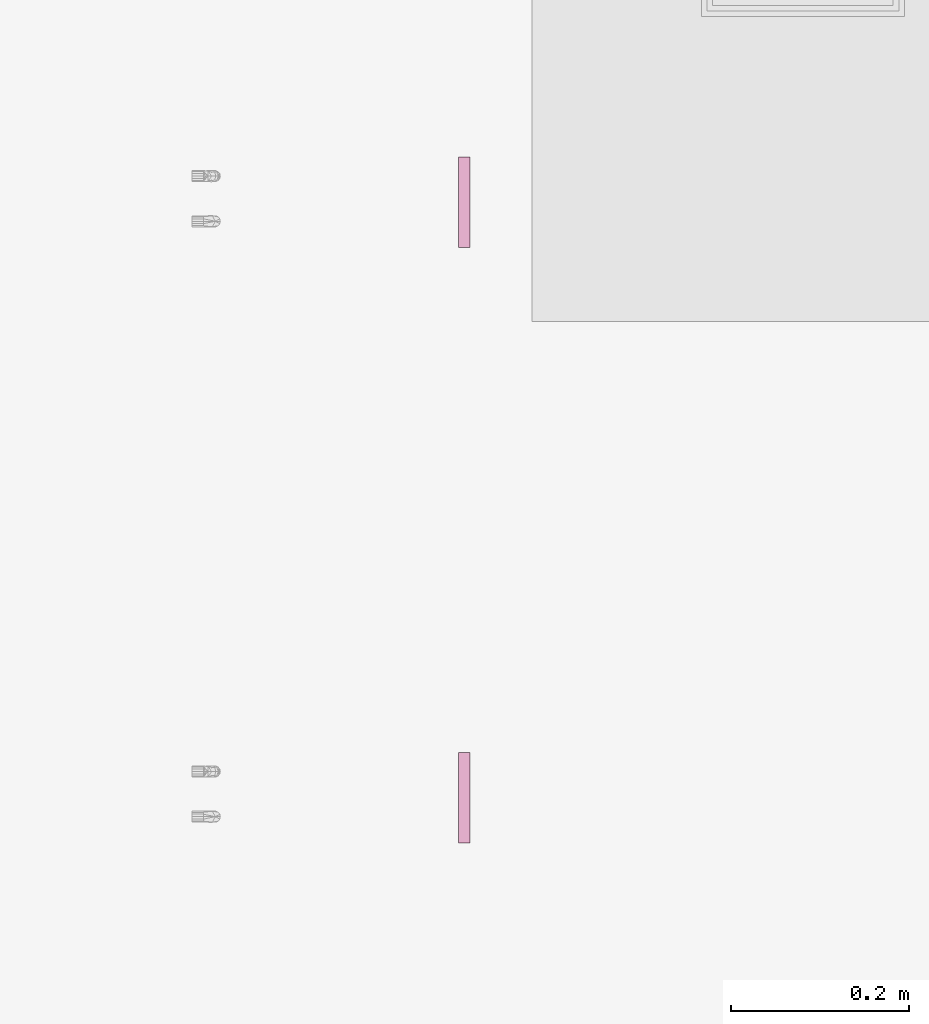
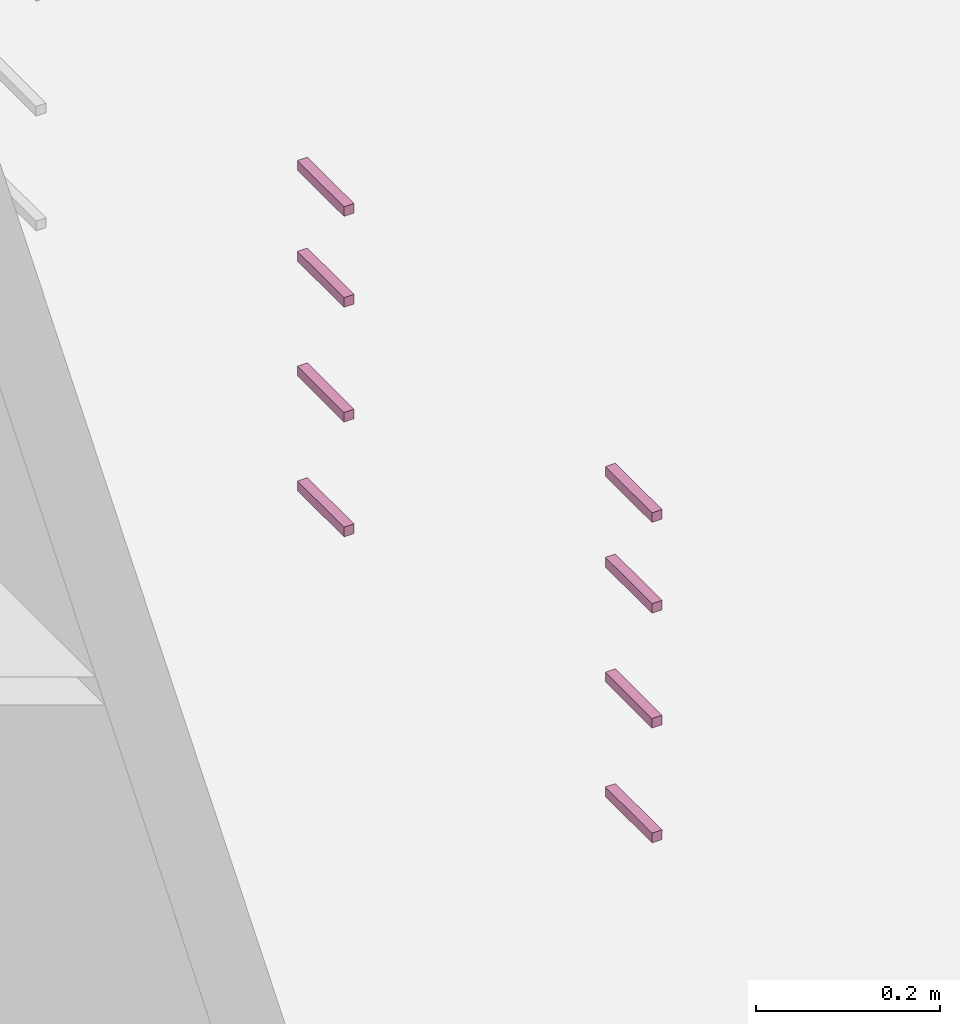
# One storey, part 30 of 40: 2 furnishings.
"""IFC2X3 building model written with IfcOpenShell, lengths in metres."""

from ifc_helpers import new_model, entity, si_unit, converted_unit, derived_unit, direction, frame, frame_2d, origin, place, context, subcontext, project, spatial, rectangle, extrude, source, transform, mapped, material, type_object, type_shapes, element, save


model = new_model("IFC2X3")

# Units and contexts
model_context = context("Model", 3, precision=1e-05, world=origin(), true_north=direction((6.12303176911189e-17, 1.0)))
body_context = subcontext(model_context, "Body", "Model", "MODEL_VIEW")
ifc_project = project(units=[si_unit("LENGTHUNIT", "METRE"), si_unit("AREAUNIT", "SQUARE_METRE"), si_unit("VOLUMEUNIT", "CUBIC_METRE"), converted_unit("PLANEANGLEUNIT", "DEGREE", entity("IfcRatioMeasure", 0.0174532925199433), si_unit("PLANEANGLEUNIT", "RADIAN"), dimensions=[0, 0, 0, 0, 0, 0, 0]), si_unit("MASSUNIT", "GRAM", prefix="KILO"), derived_unit("MASSDENSITYUNIT", [(si_unit("MASSUNIT", "GRAM", prefix="KILO"), 1), (si_unit("LENGTHUNIT", "METRE"), -3)]), si_unit("TIMEUNIT", "SECOND"), si_unit("FREQUENCYUNIT", "HERTZ"), si_unit("THERMODYNAMICTEMPERATUREUNIT", "DEGREE_CELSIUS"), derived_unit("THERMALTRANSMITTANCEUNIT", [(si_unit("MASSUNIT", "GRAM", prefix="KILO"), 1), (si_unit("THERMODYNAMICTEMPERATUREUNIT", "KELVIN"), -1), (si_unit("TIMEUNIT", "SECOND"), -3)]), derived_unit("VOLUMETRICFLOWRATEUNIT", [(si_unit("LENGTHUNIT", "METRE"), 3), (si_unit("TIMEUNIT", "SECOND"), -1)]), si_unit("ELECTRICCURRENTUNIT", "AMPERE"), si_unit("ELECTRICVOLTAGEUNIT", "VOLT"), si_unit("POWERUNIT", "WATT"), si_unit("FORCEUNIT", "NEWTON", prefix="KILO"), si_unit("ILLUMINANCEUNIT", "LUX"), si_unit("LUMINOUSFLUXUNIT", "LUMEN"), si_unit("LUMINOUSINTENSITYUNIT", "CANDELA"), derived_unit("USERDEFINED", [(si_unit("MASSUNIT", "GRAM", prefix="KILO"), -1), (si_unit("LENGTHUNIT", "METRE"), -2), (si_unit("TIMEUNIT", "SECOND"), 3), (si_unit("LUMINOUSFLUXUNIT", "LUMEN"), 1)]), derived_unit("LINEARVELOCITYUNIT", [(si_unit("LENGTHUNIT", "METRE"), 1), (si_unit("TIMEUNIT", "SECOND"), -1)]), si_unit("PRESSUREUNIT", "PASCAL"), derived_unit("USERDEFINED", [(si_unit("LENGTHUNIT", "METRE"), -2), (si_unit("MASSUNIT", "GRAM", prefix="KILO"), 1), (si_unit("TIMEUNIT", "SECOND"), -2)])], contexts=[model_context])

# Site, building, storey, space
site_placement = place(None, origin())
site = spatial("IfcSite", under=ifc_project, at=site_placement, Name="Surface", CompositionType="ELEMENT")
building_placement = place(site_placement, origin())
building = spatial("IfcBuilding", under=site, at=building_placement, CompositionType="ELEMENT")
storey_placement = place(building_placement, origin())
storey = spatial("IfcBuildingStorey", under=building, at=storey_placement, Name="RDC", CompositionType="ELEMENT", Elevation=-1.0941605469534e-13)
space_placement = place(storey_placement, origin())
space = spatial("IfcSpace", under=storey, at=space_placement, Name="21", CompositionType="ELEMENT", InteriorOrExteriorSpace="INTERNAL")

# Furnishings
ifc_material = material(Name="Plastique - Noir")
furniture_type = type_object("IfcFurnitureType", Name="670 mm", material=ifc_material)
shared_shape = source(origin(), body_context, "Body", "SweptSolid", [
    extrude(rectangle(XDim=0.0127, YDim=0.1016, at=frame_2d((-6.76542155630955e-17, 3.46944695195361e-18), x_axis=(1.0, 0.0))), frame((0.0187377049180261, -0.619049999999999, 0.802850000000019), z_axis=(0.0, 0.0, 1.0), x_axis=(0.0, 1.0, 0.0)), (0.0, 0.0, 1.0), 0.0127000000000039),
    extrude(rectangle(XDim=0.0127, YDim=0.101600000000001, at=frame_2d((-6.76542155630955e-17, 0.0), x_axis=(1.0, 0.0))), frame((0.0187377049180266, -0.619049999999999, 0.682200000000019), z_axis=(0.0, 0.0, 1.0), x_axis=(0.0, 1.0, 0.0)), (0.0, 0.0, 1.0), 0.0126999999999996),
    extrude(rectangle(XDim=0.0127, YDim=0.101600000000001, at=frame_2d((-6.76542155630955e-17, 3.46944695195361e-18), x_axis=(1.0, 0.0))), frame((0.0187377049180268, -0.619049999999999, 0.529800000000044), z_axis=(0.0, 0.0, 1.0), x_axis=(0.0, 1.0, 0.0)), (0.0, 0.0, 1.0), 0.0126999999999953),
    extrude(rectangle(XDim=0.0127, YDim=0.101600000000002, at=frame_2d((-6.76542155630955e-17, 3.46944695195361e-18), x_axis=(1.0, 0.0))), frame((0.0187377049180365, -0.619049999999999, 0.377400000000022), z_axis=(0.0, 0.0, 1.0), x_axis=(0.0, 1.0, 0.0)), (0.0, 0.0, 1.0), 0.0126999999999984),
])
type_shapes(furniture_type, [shared_shape])
for number, where, z_axis, x_axis, name in (
    (1, (-2.50248888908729, 5.92922297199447, 0.0), (0.0, 0.0, 1.0), (0.0, 1.0, 0.0), "Placard - 4 tiroirs:670 mm"),
    (2, (-2.5024888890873, 5.25922297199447, 0.0), (0.0, 0.0, 1.0), (0.0, 1.0, 0.0), "Placard - 4 tiroirs:670 mm"),
):
    element("IfcFurnishingElement", number, at=place(space_placement, frame(where, z_axis=z_axis, x_axis=x_axis)), inside=space, type_object=furniture_type, material=ifc_material, Name=name, ObjectType="670 mm", context=body_context, shape_type="MappedRepresentation", body=[
        mapped(shared_shape, transform((0.0, 0.0, 0.0), scale=1.0)),
    ])

save(model, "model.ifc")
